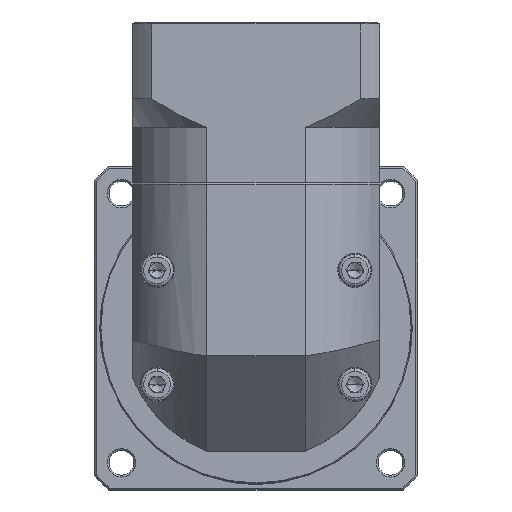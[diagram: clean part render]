
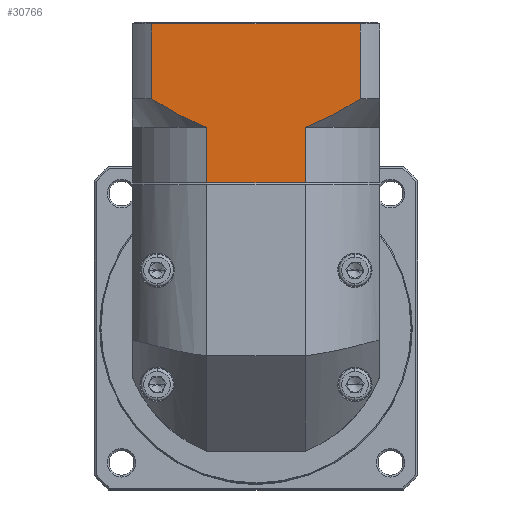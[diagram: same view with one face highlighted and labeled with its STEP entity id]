
A CAD part, top view. The second image highlights one B-rep face of the part: STEP entity #30766.
In plain terms, the highlighted planar face has unit normal (0, 0, 1).
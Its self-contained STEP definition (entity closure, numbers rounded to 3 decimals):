
#278 = LINE ( 'NONE', #112701, #11894 ) ;
#3290 = CARTESIAN_POINT ( 'NONE',  ( -83.586, 80.615, 37.988 ) ) ;
#4037 = CARTESIAN_POINT ( 'NONE',  ( -40.671, 87.173, 37.988 ) ) ;
#11894 = VECTOR ( 'NONE', #28130, 1000. ) ;
#12349 = VECTOR ( 'NONE', #105579, 1000. ) ;
#12504 = LINE ( 'NONE', #92848, #24059 ) ;
#14262 = CARTESIAN_POINT ( 'NONE',  ( -53.786, 80.164, 37.988 ) ) ;
#14685 = PLANE ( 'NONE',  #133466 ) ;
#14770 = VECTOR ( 'NONE', #130501, 1000. ) ;
#14911 = VERTEX_POINT ( 'NONE', #95970 ) ;
#18450 = DIRECTION ( 'NONE',  ( 0., 1., 0. ) ) ;
#19168 = EDGE_CURVE ( 'NONE', #104487, #22067, #93805, .T. ) ;
#19722 = ORIENTED_EDGE ( 'NONE', *, *, #27233, .T. ) ;
#20094 = CARTESIAN_POINT ( 'NONE',  ( -40.671, 79.673, 37.988 ) ) ;
#22067 = VERTEX_POINT ( 'NONE', #91916 ) ;
#24059 = VECTOR ( 'NONE', #61607, 1000. ) ;
#24194 = ORIENTED_EDGE ( 'NONE', *, *, #25615, .T. ) ;
#25615 = EDGE_CURVE ( 'NONE', #62350, #22067, #97763, .T. ) ;
#27233 = EDGE_CURVE ( 'NONE', #104487, #91881, #278, .T. ) ;
#28130 = DIRECTION ( 'NONE',  ( -1., 0., 0. ) ) ;
#30766 = ADVANCED_FACE ( 'NONE', ( #47616 ), #14685, .F. ) ;
#33416 = DIRECTION ( 'NONE',  ( 1., 0., 0. ) ) ;
#34142 = CARTESIAN_POINT ( 'NONE',  ( -52.524, 80.689, 37.988 ) ) ;
#34787 = CARTESIAN_POINT ( 'NONE',  ( -90.819, 84.34, 37.988 ) ) ;
#35694 = CARTESIAN_POINT ( 'NONE',  ( -81.048, 79.673, 37.988 ) ) ;
#35928 = CARTESIAN_POINT ( 'NONE',  ( -100.557, 107.373, 37.988 ) ) ;
#42626 = LINE ( 'NONE', #110487, #57614 ) ;
#44803 = EDGE_CURVE ( 'NONE', #123648, #14911, #120008, .T. ) ;
#45931 = CARTESIAN_POINT ( 'NONE',  ( -86.038, 81.759, 37.988 ) ) ;
#47320 = CARTESIAN_POINT ( 'NONE',  ( -95.443, 87.173, 37.988 ) ) ;
#47616 = FACE_OUTER_BOUND ( 'NONE', #50339, .T. ) ;
#50339 = EDGE_LOOP ( 'NONE', ( #122003, #19722, #102739, #84206, #85712, #92178, #104046, #24194 ) ) ;
#53126 = CARTESIAN_POINT ( 'NONE',  ( -55.067, 79.673, 37.988 ) ) ;
#54532 = LINE ( 'NONE', #87794, #14770 ) ;
#55074 = CARTESIAN_POINT ( 'NONE',  ( -45.253, 84.324, 37.988 ) ) ;
#55527 = CARTESIAN_POINT ( 'NONE',  ( -42.939, 85.711, 37.988 ) ) ;
#56462 = CARTESIAN_POINT ( 'NONE',  ( -51.9, 80.963, 37.988 ) ) ;
#57614 = VECTOR ( 'NONE', #18450, 1000. ) ;
#58025 = CARTESIAN_POINT ( 'NONE',  ( -94.305, 86.439, 37.988 ) ) ;
#60802 = CARTESIAN_POINT ( 'NONE',  ( -81.048, 79.673, 37.988 ) ) ;
#61607 = DIRECTION ( 'NONE',  ( 0., 1., 0. ) ) ;
#62350 = VERTEX_POINT ( 'NONE', #53126 ) ;
#64404 = B_SPLINE_CURVE_WITH_KNOTS ( 'NONE', 3,
 ( #47320, #58025, #68671, #34787, #120799, #45931, #3290, #35694 ),
 .UNSPECIFIED., .F., .F.,
 ( 4, 2, 2, 4 ),
 ( 0.058, 0.062, 0.066, 0.074 ),
 .UNSPECIFIED. ) ;
#66861 = CARTESIAN_POINT ( 'NONE',  ( -100.557, 65.173, 37.988 ) ) ;
#68671 = CARTESIAN_POINT ( 'NONE',  ( -93.154, 85.724, 37.988 ) ) ;
#74174 = CARTESIAN_POINT ( 'NONE',  ( -55.067, 79.673, 37.988 ) ) ;
#74593 = CARTESIAN_POINT ( 'NONE',  ( -40.671, 106.873, 37.988 ) ) ;
#77441 = CARTESIAN_POINT ( 'NONE',  ( -95.443, 106.873, 37.988 ) ) ;
#78731 = DIRECTION ( 'NONE',  ( 0., 0., -1. ) ) ;
#84206 = ORIENTED_EDGE ( 'NONE', *, *, #134060, .T. ) ;
#85712 = ORIENTED_EDGE ( 'NONE', *, *, #107832, .F. ) ;
#87794 = CARTESIAN_POINT ( 'NONE',  ( -55.067, 79.673, 37.988 ) ) ;
#88546 = DIRECTION ( 'NONE',  ( 0., 1., 0. ) ) ;
#88782 = EDGE_CURVE ( 'NONE', #135104, #91881, #12504, .T. ) ;
#91881 = VERTEX_POINT ( 'NONE', #77441 ) ;
#91916 = CARTESIAN_POINT ( 'NONE',  ( -40.671, 87.173, 37.988 ) ) ;
#92178 = ORIENTED_EDGE ( 'NONE', *, *, #44803, .T. ) ;
#92848 = CARTESIAN_POINT ( 'NONE',  ( -95.443, 79.673, 37.988 ) ) ;
#93805 = LINE ( 'NONE', #20094, #12349 ) ;
#95126 = VECTOR ( 'NONE', #33416, 1000. ) ;
#95970 = CARTESIAN_POINT ( 'NONE',  ( -55.067, 65.173, 37.988 ) ) ;
#97763 = B_SPLINE_CURVE_WITH_KNOTS ( 'NONE', 3,
 ( #74174, #127664, #14262, #34142, #56462, #130349, #99299, #55074, #55527, #4037 ),
 .UNSPECIFIED., .F., .F.,
 ( 4, 2, 2, 2, 4 ),
 ( 0.101, 0.103, 0.105, 0.109, 0.117 ),
 .UNSPECIFIED. ) ;
#99136 = EDGE_CURVE ( 'NONE', #62350, #14911, #54532, .T. ) ;
#99299 = CARTESIAN_POINT ( 'NONE',  ( -48.834, 82.419, 37.988 ) ) ;
#102739 = ORIENTED_EDGE ( 'NONE', *, *, #88782, .F. ) ;
#104046 = ORIENTED_EDGE ( 'NONE', *, *, #99136, .F. ) ;
#104487 = VERTEX_POINT ( 'NONE', #74593 ) ;
#105579 = DIRECTION ( 'NONE',  ( 0., -1., 0. ) ) ;
#107498 = VERTEX_POINT ( 'NONE', #60802 ) ;
#107832 = EDGE_CURVE ( 'NONE', #123648, #107498, #42626, .T. ) ;
#110487 = CARTESIAN_POINT ( 'NONE',  ( -81.048, 79.673, 37.988 ) ) ;
#112701 = CARTESIAN_POINT ( 'NONE',  ( -100.557, 106.873, 37.988 ) ) ;
#120008 = LINE ( 'NONE', #66861, #95126 ) ;
#120799 = CARTESIAN_POINT ( 'NONE',  ( -89.633, 83.67, 37.988 ) ) ;
#122003 = ORIENTED_EDGE ( 'NONE', *, *, #19168, .F. ) ;
#123648 = VERTEX_POINT ( 'NONE', #129267 ) ;
#127664 = CARTESIAN_POINT ( 'NONE',  ( -54.425, 79.911, 37.988 ) ) ;
#129267 = CARTESIAN_POINT ( 'NONE',  ( -81.048, 65.173, 37.988 ) ) ;
#130349 = CARTESIAN_POINT ( 'NONE',  ( -50.047, 81.814, 37.988 ) ) ;
#130501 = DIRECTION ( 'NONE',  ( 0., -1., 0. ) ) ;
#133466 = AXIS2_PLACEMENT_3D ( 'NONE', #35928, #78731, #88546 ) ;
#134060 = EDGE_CURVE ( 'NONE', #135104, #107498, #64404, .T. ) ;
#135104 = VERTEX_POINT ( 'NONE', #137501 ) ;
#137501 = CARTESIAN_POINT ( 'NONE',  ( -95.443, 87.173, 37.988 ) ) ;
